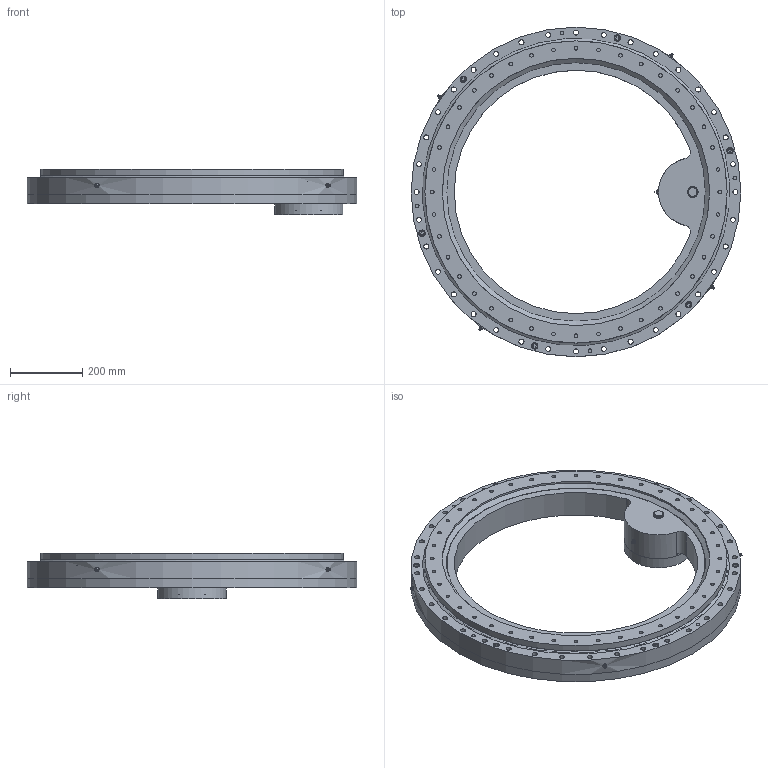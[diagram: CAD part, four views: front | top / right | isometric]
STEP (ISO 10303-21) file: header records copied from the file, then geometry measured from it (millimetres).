
FILE_DESCRIPTION(/* description */ ('STEP AP214'),/* implementation_level */ '2;1');
FILE_NAME(/* name */ '\\Serwer-ad\dnia$\dnia_tomasz_tb\Desktop\Tomcio\1. Cenniki + katalogi + materiały\U- Transmission\Katalogi 2023\Wersja NATECH DRV\Inner gear - slew drive\Our inner gear slew drive STEP\PT-M-0841-I-B-S.stp',/* time_stamp */ '2024-04-30T10:36:05+02:00',/* author */ ('dnia_tomasz_tb'),/* organization */ (''),/* preprocessor_version */ 'ST-DEVELOPER v19',/* originating_system */ 'Autodesk Inventor 2023',/* authorisation */ '');
FILE_SCHEMA (('AUTOMOTIVE_DESIGN { 1 0 10303 214 3 1 1 }'));
Length unit declared in the file: millimetre
Products named in the file (1): PT-M-0841-I-B-S
Bounding box: 915 x 915 x 126 mm (x, y, z)
Surface area: 1583152.9 mm2 (no closed solid volume)
Topology: 0 solids, 50 shells, 357 faces, 1193 edges, 859 vertices
Faces by surface type: cylinder 160, plane 152, torus 20, cone 15, sphere 10
Full cylindrical faces by diameter (mm): 2 x5, 8.5 x10, 10.2 x40, 14 x36, 16 x36, 18 x14, 26 x1, 30 x1, 65 x1, 80 x1, 88.333 x1, 130 x1, 190 x1, 742 x1, 839 x1, 915 x2
Entity records: 16393 total; most frequent: CARTESIAN_POINT 4834, DIRECTION 2428, ORIENTED_EDGE 1860, EDGE_CURVE 1170, AXIS2_PLACEMENT_3D 960, VERTEX_POINT 859, EDGE_LOOP 663, CIRCLE 602
